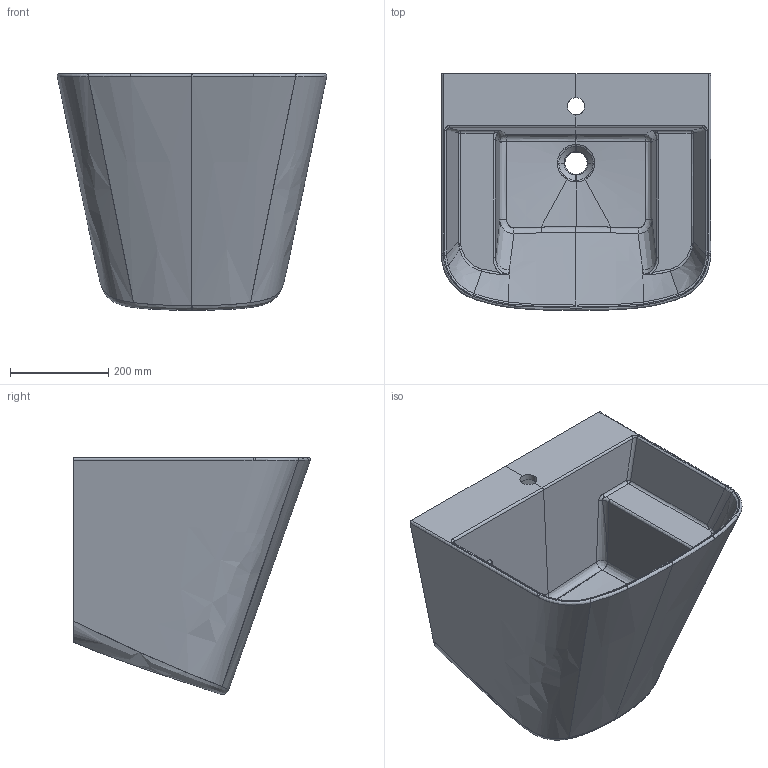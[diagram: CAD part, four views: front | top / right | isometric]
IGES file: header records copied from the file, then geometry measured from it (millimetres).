
Start section: START RECORD GO HERE.
Global section: file name: 5482_Lavatoio MEG.igs; native system: DASSAULT SYSTEMES CATIA V5 R19 - www.3ds.com; preprocessor: CATIA Version 5 Release 19 SP 5 ; author: gioge; organization: LAPTOP-G94B6G74; date: 20200630.122049; units: millimetre
Bounding box: 547.94 x 481.6 x 481.25 mm (x, y, z)
Surface area: 1523479.8 mm2 (no closed solid volume)
Topology: 0 solids, 0 shells, 250 faces, 1261 edges, 1252 vertices
Faces by surface type: bspline 168, revolution 54, plane 26, extrusion 2
